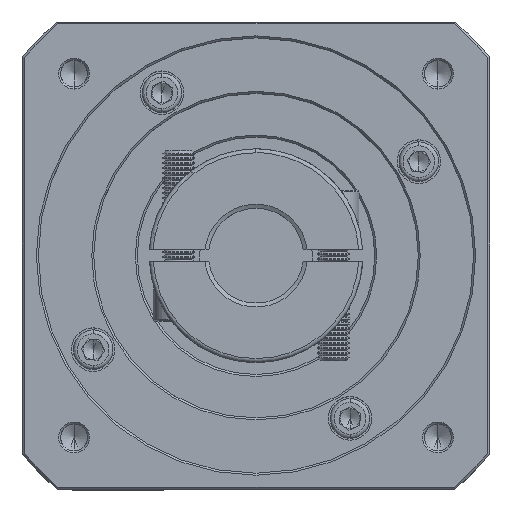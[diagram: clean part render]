
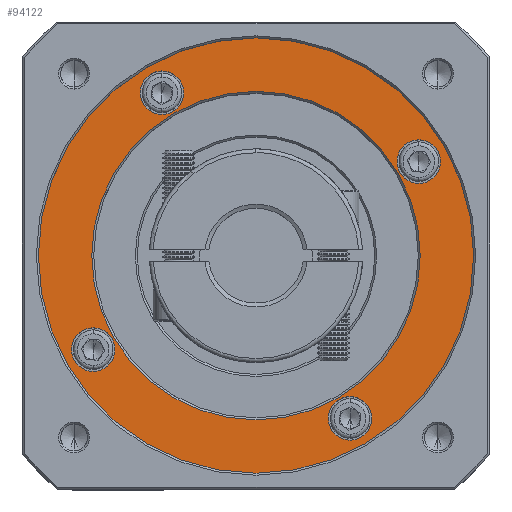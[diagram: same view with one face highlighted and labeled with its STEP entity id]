
A CAD part, top view. The second image highlights one B-rep face of the part: STEP entity #94122.
In plain terms, the highlighted planar face has unit normal (0, 0, 1).
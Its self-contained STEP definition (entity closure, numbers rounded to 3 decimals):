
#746 = CARTESIAN_POINT ( 'NONE',  ( 11.546, 32.723, 0.694 ) ) ;
#752 = DIRECTION ( 'NONE',  ( 0., 0., -1. ) ) ;
#6877 = AXIS2_PLACEMENT_3D ( 'NONE', #62035, #752, #22183 ) ;
#7341 = CARTESIAN_POINT ( 'NONE',  ( 11.182, 61.973, 0.694 ) ) ;
#7880 = EDGE_CURVE ( 'NONE', #79123, #60942, #41928, .T. ) ;
#12772 = ORIENTED_EDGE ( 'NONE', *, *, #55372, .T. ) ;
#13837 = DIRECTION ( 'NONE',  ( 0., 0., -1. ) ) ;
#14215 = DIRECTION ( 'NONE',  ( 1., 0., 0. ) ) ;
#14271 = EDGE_LOOP ( 'NONE', ( #57616, #95582 ) ) ;
#15928 = CARTESIAN_POINT ( 'NONE',  ( 28.932, 97.61, 0.694 ) ) ;
#17134 = CARTESIAN_POINT ( 'NONE',  ( 28.932, 103.11, 0.694 ) ) ;
#17662 = AXIS2_PLACEMENT_3D ( 'NONE', #90605, #81667, #102247 ) ;
#17822 = PLANE ( 'NONE',  #115444 ) ;
#18211 = EDGE_LOOP ( 'NONE', ( #118796, #44938 ) ) ;
#18265 = DIRECTION ( 'NONE',  ( 0., 0., 1. ) ) ;
#18974 = FACE_BOUND ( 'NONE', #95137, .T. ) ;
#21939 = CIRCLE ( 'NONE', #73404, 5.5 ) ;
#21983 = ORIENTED_EDGE ( 'NONE', *, *, #7880, .T. ) ;
#22183 = DIRECTION ( 'NONE',  ( 1., 0., 0. ) ) ;
#22784 = CARTESIAN_POINT ( 'NONE',  ( 93.818, 85.723, 0.694 ) ) ;
#24407 = CIRCLE ( 'NONE', #47849, 55. ) ;
#24824 = DIRECTION ( 'NONE',  ( 0., 1., 0. ) ) ;
#25429 = CIRCLE ( 'NONE', #82984, 55. ) ;
#28465 = EDGE_CURVE ( 'NONE', #98745, #96286, #120255, .T. ) ;
#28586 = FACE_BOUND ( 'NONE', #14271, .T. ) ;
#28856 = DIRECTION ( 'NONE',  ( 0., 1., 0. ) ) ;
#29241 = CIRCLE ( 'NONE', #74487, 41.5 ) ;
#29731 = CARTESIAN_POINT ( 'NONE',  ( 94.182, 61.973, 0.694 ) ) ;
#30144 = FACE_BOUND ( 'NONE', #32025, .T. ) ;
#30733 = DIRECTION ( 'NONE',  ( 0., 0., -1. ) ) ;
#32025 = EDGE_LOOP ( 'NONE', ( #110834, #71902 ) ) ;
#33190 = EDGE_CURVE ( 'NONE', #96286, #98745, #126351, .T. ) ;
#33574 = CARTESIAN_POINT ( 'NONE',  ( 28.932, 108.61, 0.694 ) ) ;
#35034 = CARTESIAN_POINT ( 'NONE',  ( 76.432, 15.337, 0.694 ) ) ;
#35635 = VERTEX_POINT ( 'NONE', #35034 ) ;
#35921 = EDGE_CURVE ( 'NONE', #120108, #100232, #47468, .T. ) ;
#35925 = CARTESIAN_POINT ( 'NONE',  ( 93.818, 91.223, 0.694 ) ) ;
#36254 = CARTESIAN_POINT ( 'NONE',  ( 52.682, 6.973, 0.694 ) ) ;
#37672 = EDGE_CURVE ( 'NONE', #63164, #97223, #29241, .T. ) ;
#38290 = CARTESIAN_POINT ( 'NONE',  ( 76.432, 20.837, 0.694 ) ) ;
#40086 = CARTESIAN_POINT ( 'NONE',  ( 28.932, 103.11, 0.694 ) ) ;
#40583 = AXIS2_PLACEMENT_3D ( 'NONE', #126277, #13837, #44254 ) ;
#41928 = CIRCLE ( 'NONE', #94085, 5.5 ) ;
#43108 = DIRECTION ( 'NONE',  ( 0., 1., 0. ) ) ;
#44254 = DIRECTION ( 'NONE',  ( 0., 1., 0. ) ) ;
#44938 = ORIENTED_EDGE ( 'NONE', *, *, #122225, .T. ) ;
#47468 = CIRCLE ( 'NONE', #40583, 5.5 ) ;
#47849 = AXIS2_PLACEMENT_3D ( 'NONE', #53228, #103856, #124885 ) ;
#48494 = EDGE_LOOP ( 'NONE', ( #107867, #94438 ) ) ;
#50538 = EDGE_LOOP ( 'NONE', ( #21983, #63075 ) ) ;
#52863 = VERTEX_POINT ( 'NONE', #119183 ) ;
#53228 = CARTESIAN_POINT ( 'NONE',  ( 52.682, 61.973, 0.694 ) ) ;
#54755 = AXIS2_PLACEMENT_3D ( 'NONE', #123344, #103661, #43108 ) ;
#55372 = EDGE_CURVE ( 'NONE', #97223, #63164, #85529, .T. ) ;
#55870 = FACE_BOUND ( 'NONE', #50538, .T. ) ;
#57616 = ORIENTED_EDGE ( 'NONE', *, *, #120942, .T. ) ;
#58468 = EDGE_CURVE ( 'NONE', #35635, #52863, #124869, .T. ) ;
#60220 = DIRECTION ( 'NONE',  ( 0., 0., -1. ) ) ;
#60291 = CARTESIAN_POINT ( 'NONE',  ( 11.546, 38.223, 0.694 ) ) ;
#60942 = VERTEX_POINT ( 'NONE', #15928 ) ;
#62035 = CARTESIAN_POINT ( 'NONE',  ( 52.682, 61.973, 0.694 ) ) ;
#63075 = ORIENTED_EDGE ( 'NONE', *, *, #120444, .T. ) ;
#63164 = VERTEX_POINT ( 'NONE', #29731 ) ;
#67144 = DIRECTION ( 'NONE',  ( 0., 0., -1. ) ) ;
#67358 = EDGE_CURVE ( 'NONE', #76763, #87836, #25429, .T. ) ;
#68366 = DIRECTION ( 'NONE',  ( 0., 0., -1. ) ) ;
#70637 = DIRECTION ( 'NONE',  ( 0., 1., 0. ) ) ;
#70699 = DIRECTION ( 'NONE',  ( 0., 1., 0. ) ) ;
#70813 = CARTESIAN_POINT ( 'NONE',  ( 52.682, 116.973, 0.694 ) ) ;
#71902 = ORIENTED_EDGE ( 'NONE', *, *, #35921, .T. ) ;
#72188 = EDGE_CURVE ( 'NONE', #100232, #120108, #21939, .T. ) ;
#73404 = AXIS2_PLACEMENT_3D ( 'NONE', #22784, #67144, #95383 ) ;
#74487 = AXIS2_PLACEMENT_3D ( 'NONE', #105642, #75698, #14215 ) ;
#75698 = DIRECTION ( 'NONE',  ( 0., 0., -1. ) ) ;
#76763 = VERTEX_POINT ( 'NONE', #70813 ) ;
#79123 = VERTEX_POINT ( 'NONE', #33574 ) ;
#81667 = DIRECTION ( 'NONE',  ( 0., 0., -1. ) ) ;
#82984 = AXIS2_PLACEMENT_3D ( 'NONE', #126096, #115796, #24824 ) ;
#85529 = CIRCLE ( 'NONE', #6877, 41.5 ) ;
#87519 = DIRECTION ( 'NONE',  ( 0., 0., -1. ) ) ;
#87836 = VERTEX_POINT ( 'NONE', #36254 ) ;
#88837 = DIRECTION ( 'NONE',  ( 0., 1., 0. ) ) ;
#89513 = CARTESIAN_POINT ( 'NONE',  ( 52.682, 61.973, 0.694 ) ) ;
#89982 = DIRECTION ( 'NONE',  ( 0., 1., 0. ) ) ;
#90605 = CARTESIAN_POINT ( 'NONE',  ( 76.432, 20.837, 0.694 ) ) ;
#92892 = CIRCLE ( 'NONE', #124825, 5.5 ) ;
#94085 = AXIS2_PLACEMENT_3D ( 'NONE', #40086, #60220, #70637 ) ;
#94122 = ADVANCED_FACE ( 'NONE', ( #118313, #18974, #55870, #30144, #110392, #28586 ), #17822, .T. ) ;
#94438 = ORIENTED_EDGE ( 'NONE', *, *, #33190, .T. ) ;
#95137 = EDGE_LOOP ( 'NONE', ( #122538, #12772 ) ) ;
#95383 = DIRECTION ( 'NONE',  ( 0., 1., 0. ) ) ;
#95582 = ORIENTED_EDGE ( 'NONE', *, *, #58468, .T. ) ;
#96286 = VERTEX_POINT ( 'NONE', #746 ) ;
#97223 = VERTEX_POINT ( 'NONE', #7341 ) ;
#98745 = VERTEX_POINT ( 'NONE', #101761 ) ;
#100232 = VERTEX_POINT ( 'NONE', #35925 ) ;
#101761 = CARTESIAN_POINT ( 'NONE',  ( 11.546, 43.723, 0.694 ) ) ;
#102247 = DIRECTION ( 'NONE',  ( 0., 1., 0. ) ) ;
#103661 = DIRECTION ( 'NONE',  ( 0., 0., -1. ) ) ;
#103856 = DIRECTION ( 'NONE',  ( 0., 0., 1. ) ) ;
#105642 = CARTESIAN_POINT ( 'NONE',  ( 52.682, 61.973, 0.694 ) ) ;
#107867 = ORIENTED_EDGE ( 'NONE', *, *, #28465, .T. ) ;
#110392 = FACE_BOUND ( 'NONE', #48494, .T. ) ;
#110834 = ORIENTED_EDGE ( 'NONE', *, *, #72188, .T. ) ;
#115444 = AXIS2_PLACEMENT_3D ( 'NONE', #89513, #18265, #89982 ) ;
#115796 = DIRECTION ( 'NONE',  ( 0., 0., 1. ) ) ;
#118155 = CIRCLE ( 'NONE', #17662, 5.5 ) ;
#118313 = FACE_OUTER_BOUND ( 'NONE', #18211, .T. ) ;
#118796 = ORIENTED_EDGE ( 'NONE', *, *, #67358, .T. ) ;
#119183 = CARTESIAN_POINT ( 'NONE',  ( 76.432, 26.337, 0.694 ) ) ;
#120108 = VERTEX_POINT ( 'NONE', #122970 ) ;
#120174 = AXIS2_PLACEMENT_3D ( 'NONE', #38290, #68366, #28856 ) ;
#120255 = CIRCLE ( 'NONE', #123638, 5.5 ) ;
#120444 = EDGE_CURVE ( 'NONE', #60942, #79123, #92892, .T. ) ;
#120942 = EDGE_CURVE ( 'NONE', #52863, #35635, #118155, .T. ) ;
#122225 = EDGE_CURVE ( 'NONE', #87836, #76763, #24407, .T. ) ;
#122538 = ORIENTED_EDGE ( 'NONE', *, *, #37672, .T. ) ;
#122970 = CARTESIAN_POINT ( 'NONE',  ( 93.818, 80.223, 0.694 ) ) ;
#123344 = CARTESIAN_POINT ( 'NONE',  ( 11.546, 38.223, 0.694 ) ) ;
#123638 = AXIS2_PLACEMENT_3D ( 'NONE', #60291, #30733, #70699 ) ;
#124825 = AXIS2_PLACEMENT_3D ( 'NONE', #17134, #87519, #88837 ) ;
#124869 = CIRCLE ( 'NONE', #120174, 5.5 ) ;
#124885 = DIRECTION ( 'NONE',  ( 0., 1., 0. ) ) ;
#126096 = CARTESIAN_POINT ( 'NONE',  ( 52.682, 61.973, 0.694 ) ) ;
#126277 = CARTESIAN_POINT ( 'NONE',  ( 93.818, 85.723, 0.694 ) ) ;
#126351 = CIRCLE ( 'NONE', #54755, 5.5 ) ;
